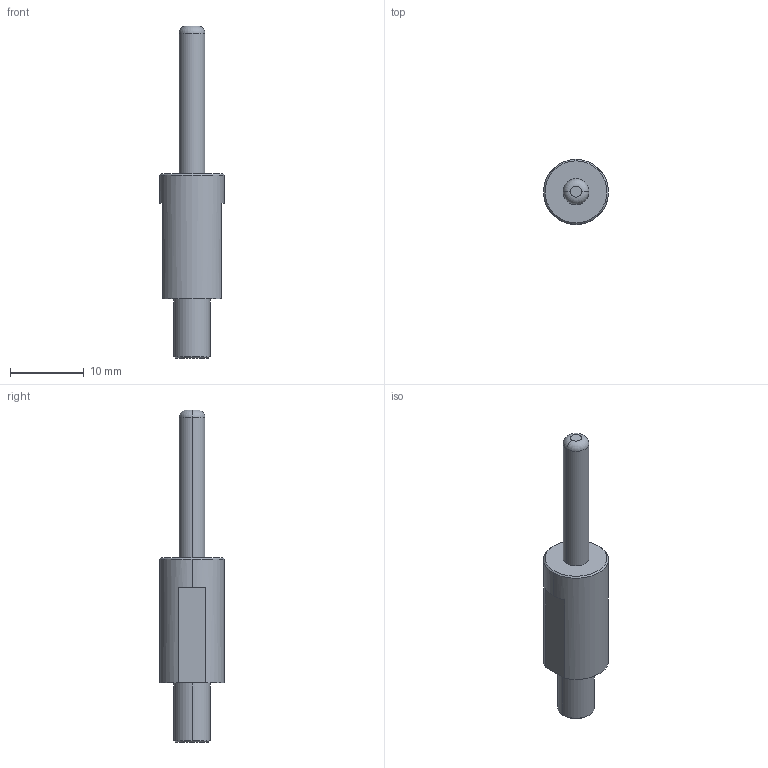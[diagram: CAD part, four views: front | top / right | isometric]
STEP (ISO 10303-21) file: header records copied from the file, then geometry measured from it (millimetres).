
FILE_DESCRIPTION(('CATIA V5 STEP Exchange'),'2;1');
FILE_NAME('D:\姚明阳\1、工装图纸\AGZ022 VDC阀装堵盖治具\GZ22.02_V2.stp','2024-03-06T10:57:13+00:00',('none'),('none'),'CATIA Version 5 Release 21 GA (IN-10)','CATIA V5 STEP AP214','none');
FILE_SCHEMA(('AUTOMOTIVE_DESIGN { 1 0 10303 214 1 1 1 1 }'));
Length unit declared in the file: millimetre
Products named in the file (1): daozhu
Bounding box: 8.8 x 8.8 x 45 mm (x, y, z)
Volume: 1354.9 mm3; surface area: 923.9 mm2
Topology: 1 solids, 1 shells, 20 faces, 42 edges, 26 vertices
Faces by surface type: plane 8, cylinder 6, cone 4, torus 2
Entity records: 520 total; most frequent: CARTESIAN_POINT 85, ORIENTED_EDGE 84, DIRECTION 74, EDGE_CURVE 42, AXIS2_PLACEMENT_3D 41, VERTEX_POINT 26, CIRCLE 24, EDGE_LOOP 22
